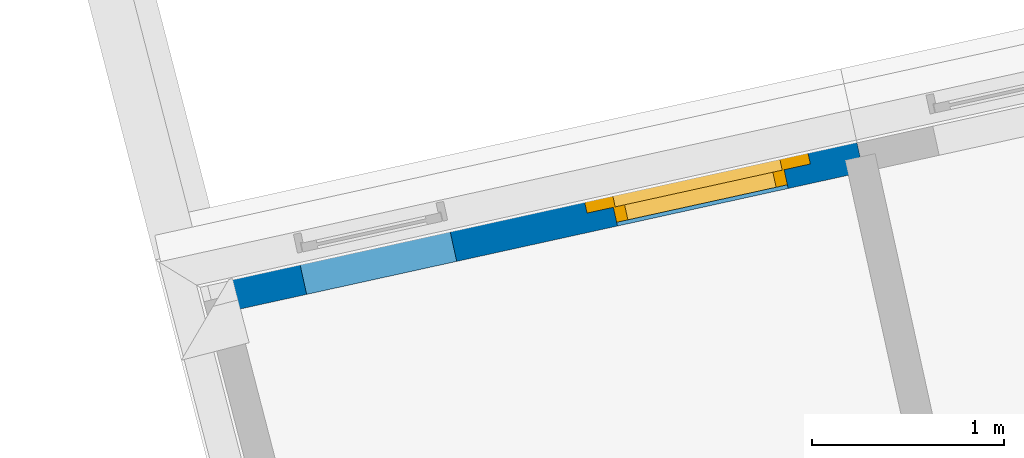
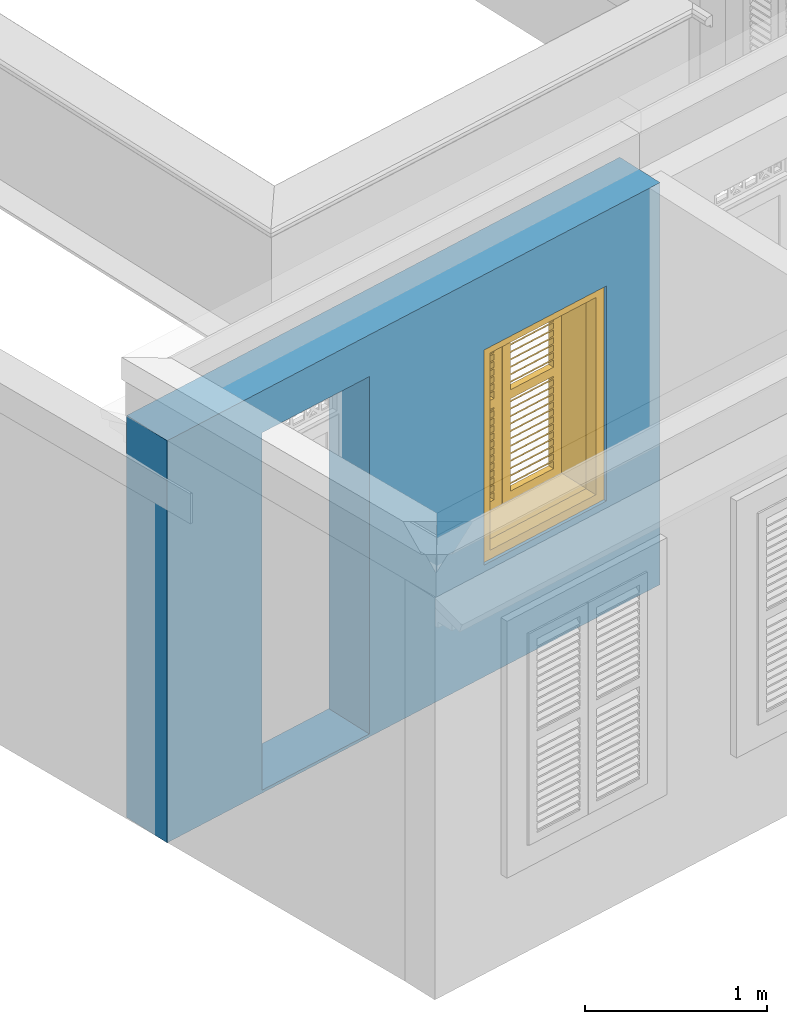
# One storey, part 3 of 17: 1 wall, 1 window, 2 openings.
"""IFC4 building model written with IfcOpenShell, lengths in metres."""

from ifc_helpers import new_model, si_unit, frame, origin, origin_with_axes, place, context, subcontext, project, spatial, polyline, outline, extrude, faceted_brep, source, transform, mapped, material, layer, layer_set, layer_usage, type_object, type_shapes, element, fill, save


model = new_model("IFC4")

# Units and contexts
model_context = context("Model", 3, world=origin_with_axes())
body_context = subcontext(model_context, "Body", "Model", "MODEL_VIEW")
ifc_project = project(units=[si_unit("PLANEANGLEUNIT", "RADIAN"), si_unit("MASSUNIT", "GRAM", prefix="KILO"), si_unit("FORCEUNIT", "NEWTON", prefix="KILO"), si_unit("LENGTHUNIT", "METRE"), si_unit("AREAUNIT", "SQUARE_METRE"), si_unit("VOLUMEUNIT", "CUBIC_METRE")], contexts=[model_context, model_context])

# Site, building, storey
site_placement = place(None, origin_with_axes())
site = spatial("IfcSite", under=ifc_project, at=site_placement, Name="Site plot-2", CompositionType="ELEMENT")
building_placement = place(None, origin_with_axes())
building = spatial("IfcBuilding", under=site, at=building_placement, Name="Building plot-2", CompositionType="ELEMENT")
storey_placement = place(None, frame((0.0, 0.0, 2.85), z_axis=(0.0, 0.0, 1.0), x_axis=(1.0, 0.0, 0.0)))
storey = spatial("IfcBuildingStorey", under=building, at=storey_placement, Name="plot-2 1", CompositionType="ELEMENT", Elevation=2.85)

# Wall, openings, window
ifc_material = material(Name="Masonry")
ifc_layer = layer(ifc_material, 0.33, ventilated=False)
ifc_layer_set = layer_set([ifc_layer], Name="exterior_0.08_0.25")
ifc_layer_usage = layer_usage(ifc_layer_set, "AXIS2", "POSITIVE", -0.25)
wall_type = type_object("IfcWallType", Name="exterior_0.08_0.25", PredefinedType="SOLIDWALL", material=ifc_layer_set)
wall_placement = place(storey_placement, frame((14.197533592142, 3.91058001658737, 0.0), z_axis=(0.0, 0.0, 1.0), x_axis=(-0.976656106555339, -0.214808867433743, 0.0)))
wall = element("IfcWall", 1, at=wall_placement, inside=storey, type_object=wall_type, material=ifc_layer_usage, Name="exterior", context=body_context, shape_type="SweptSolid", body=[
    extrude(outline(polyline([(-2.98912855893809e-16, 0.0800000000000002), (-9.28381485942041e-16, -0.25), (3.67314076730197, -0.249999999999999), (3.67314076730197, 0.0800000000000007), (-2.98912855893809e-16, 0.0800000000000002)])), origin_with_axes(), (0.0, 0.0, 1.0), 2.7),
])
opening_1_placement = place(wall_placement, frame((0.400785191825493, 0.0, 0.75)))
opening_1 = element("IfcOpeningElement", 2, at=opening_1_placement, cuts=wall, Name="My Opening", ObjectType="Opening", context=body_context, shape_type="SweptSolid", body=[
    extrude(outline(polyline([(0.0, -0.27), (0.910000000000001, -0.27), (0.910000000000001, 1.1), (-2.77555756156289e-16, 1.1), (0.0, -0.27)])), origin_with_axes(), (0.0, 0.0, 1.0), 1.445),
])
opening_2_placement = place(wall_placement, frame((2.16735557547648, 0.0, 0.02)))
element("IfcOpeningElement", 3, at=opening_2_placement, cuts=wall, Name="My Opening", ObjectType="Opening", context=body_context, shape_type="SweptSolid", body=[
    extrude(outline(polyline([(0.0, -0.269999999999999), (0.8, -0.27), (0.799999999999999, 1.1), (4.44089209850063e-16, 1.1), (0.0, -0.269999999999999)])), origin_with_axes(), (0.0, 0.0, 1.0), 2.4),
])
window_type = type_object("IfcWindowType", Name="shuttered_shorter", PartitioningType="DOUBLE_PANEL_HORIZONTAL", PredefinedType="NOTDEFINED")
shared_shape = source(origin(), body_context, "Body", "Brep", [
    faceted_brep([(0.393, 0.0, 0.622), (0.074, 0.0, 0.622), (0.074, 0.0, 0.632), (0.393, 0.0, 0.632), (0.074, -0.04, 0.592), (0.393, -0.04, 0.592), (0.393, -0.04, 0.582), (0.074, -0.04, 0.582), (0.517, 0.0, 0.682), (0.836, 0.0, 0.682), (0.836, 0.0, 0.672), (0.517, 0.0, 0.672), (0.517, -0.04, 0.642), (0.836, -0.04, 0.642), (0.836, -0.04, 0.632), (0.517, -0.04, 0.632), (0.517, 0.0, 0.632), (0.836, 0.0, 0.632), (0.836, 0.0, 0.622), (0.517, 0.0, 0.622), (0.517, -0.04, 0.592), (0.836, -0.04, 0.592), (0.836, -0.04, 0.582), (0.517, -0.04, 0.582), (0.517, 0.0, 0.232), (0.836, 0.0, 0.232), (0.836, 0.0, 0.222), (0.517, 0.0, 0.222), (0.517, -0.04, 0.192), (0.836, -0.04, 0.192), (0.836, -0.04, 0.182), (0.517, -0.04, 0.182), (0.517, 0.0, 0.532), (0.836, 0.0, 0.532), (0.836, 0.0, 0.522), (0.517, 0.0, 0.522), (0.517, -0.04, 0.492), (0.836, -0.04, 0.492), (0.836, -0.04, 0.482), (0.517, -0.04, 0.482), (0.517, 0.0, 0.482), (0.836, 0.0, 0.482), (0.836, 0.0, 0.472), (0.517, 0.0, 0.472), (0.517, -0.04, 0.442), (0.836, -0.04, 0.442), (0.836, -0.04, 0.432), (0.517, -0.04, 0.432), (0.517, 0.0, 0.582), (0.836, 0.0, 0.582), (0.836, 0.0, 0.572), (0.517, 0.0, 0.572), (0.517, -0.04, 0.542), (0.836, -0.04, 0.542), (0.836, -0.04, 0.532), (0.517, -0.04, 0.532), (0.517, 0.0, 0.182), (0.836, 0.0, 0.182), (0.836, 0.0, 0.172), (0.517, 0.0, 0.172), (0.517, -0.04, 0.142), (0.836, -0.04, 0.142), (0.836, -0.04, 0.132), (0.517, -0.04, 0.132), (0.517, 0.0, 0.382), (0.836, 0.0, 0.382), (0.836, 0.0, 0.372), (0.517, 0.0, 0.372), (0.517, -0.04, 0.342), (0.836, -0.04, 0.342), (0.836, -0.04, 0.332), (0.517, -0.04, 0.332), (0.517, 0.0, 0.432), (0.836, 0.0, 0.432), (0.836, 0.0, 0.422), (0.517, 0.0, 0.422), (0.517, -0.04, 0.392), (0.836, -0.04, 0.392), (0.836, -0.04, 0.382), (0.517, -0.04, 0.382), (0.517, 0.0, 0.132), (0.836, 0.0, 0.132), (0.836, 0.0, 0.122), (0.517, 0.0, 0.122), (0.517, -0.04, 0.092), (0.836, -0.04, 0.092), (0.836, -0.04, 0.082), (0.517, -0.04, 0.082), (0.517, 0.0, 0.282), (0.836, 0.0, 0.282), (0.836, 0.0, 0.272), (0.517, 0.0, 0.272), (0.517, -0.04, 0.242), (0.836, -0.04, 0.242), (0.836, -0.04, 0.232), (0.517, -0.04, 0.232), (0.517, 0.0, 0.332), (0.836, 0.0, 0.332), (0.836, 0.0, 0.322), (0.517, 0.0, 0.322), (0.517, -0.04, 0.292), (0.836, -0.04, 0.292), (0.836, -0.04, 0.282), (0.517, -0.04, 0.282), (0.517, 0.0, 1.362667), (0.836, 0.0, 1.362667), (0.836, 0.0, 1.352667), (0.517, 0.0, 1.352667), (0.517, -0.04, 1.322667), (0.836, -0.04, 1.322667), (0.836, -0.04, 1.312667), (0.517, -0.04, 1.312667), (0.517, 0.0, 1.312667), (0.836, 0.0, 1.312667), (0.836, 0.0, 1.302667), (0.517, 0.0, 1.302667), (0.517, -0.04, 1.272667), (0.836, -0.04, 1.272667), (0.836, -0.04, 1.262667), (0.517, -0.04, 1.262667), (0.517, 0.0, 0.912667), (0.836, 0.0, 0.912667), (0.836, 0.0, 0.902667), (0.517, 0.0, 0.902667), (0.517, -0.04, 0.872667), (0.836, -0.04, 0.872667), (0.836, -0.04, 0.862667), (0.517, -0.04, 0.862667), (0.517, 0.0, 1.212667), (0.836, 0.0, 1.212667), (0.836, 0.0, 1.202667), (0.517, 0.0, 1.202667), (0.517, -0.04, 1.172667), (0.836, -0.04, 1.172667), (0.836, -0.04, 1.162667), (0.517, -0.04, 1.162667), (0.517, 0.0, 1.162667), (0.836, 0.0, 1.162667), (0.836, 0.0, 1.152667), (0.517, 0.0, 1.152667), (0.517, -0.04, 1.122667), (0.836, -0.04, 1.122667), (0.836, -0.04, 1.112667), (0.517, -0.04, 1.112667), (0.517, 0.0, 1.262667), (0.836, 0.0, 1.262667), (0.836, 0.0, 1.252667), (0.517, 0.0, 1.252667), (0.517, -0.04, 1.222667), (0.836, -0.04, 1.222667), (0.836, -0.04, 1.212667), (0.517, -0.04, 1.212667), (0.517, 0.0, 0.862667), (0.836, 0.0, 0.862667), (0.836, 0.0, 0.852667), (0.517, 0.0, 0.852667), (0.517, -0.04, 0.822667), (0.836, -0.04, 0.822667), (0.836, -0.04, 0.812667), (0.517, -0.04, 0.812667), (0.517, 0.0, 1.062667), (0.836, 0.0, 1.062667), (0.836, 0.0, 1.052667), (0.517, 0.0, 1.052667), (0.517, -0.04, 1.022667), (0.836, -0.04, 1.022667), (0.836, -0.04, 1.012667), (0.517, -0.04, 1.012667), (0.517, 0.0, 1.112667), (0.836, 0.0, 1.112667), (0.836, 0.0, 1.102667), (0.517, 0.0, 1.102667), (0.517, -0.04, 1.072667), (0.836, -0.04, 1.072667), (0.836, -0.04, 1.062667), (0.517, -0.04, 1.062667), (0.517, 0.0, 0.812667), (0.836, 0.0, 0.812667), (0.836, 0.0, 0.802667), (0.517, 0.0, 0.802667), (0.517, -0.04, 0.772667), (0.836, -0.04, 0.772667), (0.836, -0.04, 0.762667), (0.517, -0.04, 0.762667), (0.517, 0.0, 0.962667), (0.836, 0.0, 0.962667), (0.836, 0.0, 0.952667), (0.517, 0.0, 0.952667), (0.517, -0.04, 0.922667), (0.836, -0.04, 0.922667), (0.836, -0.04, 0.912667), (0.517, -0.04, 0.912667), (0.517, 0.0, 1.012667), (0.836, 0.0, 1.012667), (0.836, 0.0, 1.002667), (0.517, 0.0, 1.002667), (0.517, -0.04, 0.972667), (0.836, -0.04, 0.972667), (0.836, -0.04, 0.962667), (0.517, -0.04, 0.962667), (0.074, 0.0, 0.682), (0.393, 0.0, 0.682), (0.393, 0.0, 0.672), (0.074, 0.0, 0.672), (0.074, -0.04, 0.642), (0.393, -0.04, 0.642), (0.393, -0.04, 0.632), (0.074, -0.04, 0.632), (0.074, 0.0, 0.232), (0.393, 0.0, 0.232), (0.393, 0.0, 0.222), (0.074, 0.0, 0.222), (0.074, -0.04, 0.192), (0.393, -0.04, 0.192), (0.393, -0.04, 0.182), (0.074, -0.04, 0.182), (0.074, 0.0, 0.532), (0.393, 0.0, 0.532), (0.393, 0.0, 0.522), (0.074, 0.0, 0.522), (0.074, -0.04, 0.492), (0.393, -0.04, 0.492), (0.393, -0.04, 0.482), (0.074, -0.04, 0.482), (0.074, 0.0, 0.482), (0.393, 0.0, 0.482), (0.393, 0.0, 0.472), (0.074, 0.0, 0.472), (0.074, -0.04, 0.442), (0.393, -0.04, 0.442), (0.393, -0.04, 0.432), (0.074, -0.04, 0.432), (0.074, 0.0, 0.582), (0.393, 0.0, 0.582), (0.393, 0.0, 0.572), (0.074, 0.0, 0.572), (0.074, -0.04, 0.542), (0.393, -0.04, 0.542), (0.393, -0.04, 0.532), (0.074, -0.04, 0.532), (0.074, 0.0, 0.182), (0.393, 0.0, 0.182), (0.393, 0.0, 0.172), (0.074, 0.0, 0.172), (0.074, -0.04, 0.142), (0.393, -0.04, 0.142), (0.393, -0.04, 0.132), (0.074, -0.04, 0.132), (0.074, 0.0, 0.382), (0.393, 0.0, 0.382), (0.393, 0.0, 0.372), (0.074, 0.0, 0.372), (0.074, -0.04, 0.342), (0.393, -0.04, 0.342), (0.393, -0.04, 0.332), (0.074, -0.04, 0.332), (0.074, 0.0, 0.432), (0.393, 0.0, 0.432), (0.393, 0.0, 0.422), (0.074, 0.0, 0.422), (0.074, -0.04, 0.392), (0.393, -0.04, 0.392), (0.393, -0.04, 0.382), (0.074, -0.04, 0.382), (0.074, 0.0, 0.132), (0.393, 0.0, 0.132), (0.393, 0.0, 0.122), (0.074, 0.0, 0.122), (0.074, -0.04, 0.092), (0.393, -0.04, 0.092), (0.393, -0.04, 0.082), (0.074, -0.04, 0.082), (0.074, 0.0, 0.282), (0.393, 0.0, 0.282), (0.393, 0.0, 0.272), (0.074, 0.0, 0.272), (0.074, -0.04, 0.242), (0.393, -0.04, 0.242), (0.393, -0.04, 0.232), (0.074, -0.04, 0.232), (0.074, 0.0, 0.332), (0.393, 0.0, 0.332), (0.393, 0.0, 0.322), (0.074, 0.0, 0.322), (0.074, -0.04, 0.292), (0.393, -0.04, 0.292), (0.393, -0.04, 0.282), (0.074, -0.04, 0.282), (0.074, 0.0, 1.362667), (0.393, 0.0, 1.362667), (0.393, 0.0, 1.352667), (0.074, 0.0, 1.352667), (0.074, -0.04, 1.322667), (0.393, -0.04, 1.322667), (0.393, -0.04, 1.312667), (0.074, -0.04, 1.312667), (0.074, 0.0, 1.312667), (0.393, 0.0, 1.312667), (0.393, 0.0, 1.302667), (0.074, 0.0, 1.302667), (0.074, -0.04, 1.272667), (0.393, -0.04, 1.272667), (0.393, -0.04, 1.262667), (0.074, -0.04, 1.262667), (0.074, 0.0, 0.912667), (0.393, 0.0, 0.912667), (0.393, 0.0, 0.902667), (0.074, 0.0, 0.902667), (0.074, -0.04, 0.872667), (0.393, -0.04, 0.872667), (0.393, -0.04, 0.862667), (0.074, -0.04, 0.862667), (0.074, 0.0, 1.212667), (0.393, 0.0, 1.212667), (0.393, 0.0, 1.202667), (0.074, 0.0, 1.202667), (0.074, -0.04, 1.172667), (0.393, -0.04, 1.172667), (0.393, -0.04, 1.162667), (0.074, -0.04, 1.162667), (0.074, 0.0, 1.162667), (0.393, 0.0, 1.162667), (0.393, 0.0, 1.152667), (0.074, 0.0, 1.152667), (0.074, -0.04, 1.122667), (0.393, -0.04, 1.122667), (0.393, -0.04, 1.112667), (0.074, -0.04, 1.112667), (0.074, 0.0, 1.262667), (0.393, 0.0, 1.262667), (0.393, 0.0, 1.252667), (0.074, 0.0, 1.252667), (0.074, -0.04, 1.222667), (0.393, -0.04, 1.222667), (0.393, -0.04, 1.212667), (0.074, -0.04, 1.212667), (0.074, 0.0, 0.862667), (0.393, 0.0, 0.862667), (0.393, 0.0, 0.852667), (0.074, 0.0, 0.852667), (0.074, -0.04, 0.822667), (0.393, -0.04, 0.822667), (0.393, -0.04, 0.812667), (0.074, -0.04, 0.812667), (0.074, 0.0, 1.062667), (0.393, 0.0, 1.062667), (0.393, 0.0, 1.052667), (0.074, 0.0, 1.052667), (0.074, -0.04, 1.022667), (0.393, -0.04, 1.022667), (0.393, -0.04, 1.012667), (0.074, -0.04, 1.012667), (0.074, 0.0, 1.112667), (0.393, 0.0, 1.112667), (0.393, 0.0, 1.102667), (0.074, 0.0, 1.102667), (0.074, -0.04, 1.072667), (0.393, -0.04, 1.072667), (0.393, -0.04, 1.062667), (0.074, -0.04, 1.062667), (0.074, 0.0, 0.812667), (0.393, 0.0, 0.812667), (0.393, 0.0, 0.802667), (0.074, 0.0, 0.802667), (0.074, -0.04, 0.772667), (0.393, -0.04, 0.772667), (0.393, -0.04, 0.762667), (0.074, -0.04, 0.762667), (0.074, 0.0, 0.962667), (0.393, 0.0, 0.962667), (0.393, 0.0, 0.952667), (0.074, 0.0, 0.952667), (0.074, -0.04, 0.922667), (0.393, -0.04, 0.922667), (0.393, -0.04, 0.912667), (0.074, -0.04, 0.912667), (0.074, 0.0, 1.012667), (0.393, 0.0, 1.012667), (0.393, 0.0, 1.002667), (0.074, 0.0, 1.002667), (0.074, -0.04, 0.972667), (0.393, -0.04, 0.972667), (0.393, -0.04, 0.962667), (0.074, -0.04, 0.962667), (0.517, -0.04, 0.072), (0.457, -0.04, 0.012), (0.896, -0.04, 0.012), (0.836, -0.04, 0.072), (0.457, -0.04, 0.692667), (0.517, -0.04, 0.692667), (0.457, 0.0, 0.012), (0.896, 0.0, 0.012), (0.836, -0.04, 0.692667), (0.896, -0.04, 0.692667), (0.836, 0.0, 0.072), (0.517, 0.0, 0.072), (0.457, 0.0, 0.692667), (0.517, 0.0, 0.692667), (0.517, -0.04, 0.752666), (0.457, -0.04, 0.752666), (0.896, 0.0, 0.692667), (0.836, 0.0, 0.692667), (0.836, -0.04, 0.752666), (0.896, -0.04, 0.752666), (0.457, 0.0, 0.752666), (0.457, -0.04, 1.433333), (0.517, -0.04, 1.373333), (0.896, 0.0, 0.752666), (0.836, -0.04, 1.373333), (0.896, -0.04, 1.433333), (0.457, 0.0, 1.433333), (0.517, 0.0, 0.752666), (0.836, 0.0, 0.752666), (0.517, 0.0, 1.373333), (0.896, 0.0, 1.433333), (0.836, 0.0, 1.373333), (0.074, -0.04, 0.072), (0.014, -0.04, 0.012), (0.453, -0.04, 0.012), (0.393, -0.04, 0.072), (0.014, -0.04, 0.692667), (0.074, -0.04, 0.692667), (0.014, 0.0, 0.012), (0.453, 0.0, 0.012), (0.393, -0.04, 0.692667), (0.453, -0.04, 0.692667), (0.393, 0.0, 0.072), (0.074, 0.0, 0.072), (0.014, 0.0, 0.692667), (0.074, 0.0, 0.692667), (0.074, -0.04, 0.752666), (0.014, -0.04, 0.752666), (0.453, 0.0, 0.692667), (0.393, 0.0, 0.692667), (0.393, -0.04, 0.752666), (0.453, -0.04, 0.752666), (0.014, 0.0, 0.752666), (0.014, -0.04, 1.433333), (0.074, -0.04, 1.373333), (0.453, 0.0, 0.752666), (0.393, -0.04, 1.373333), (0.453, -0.04, 1.433333), (0.014, 0.0, 1.433333), (0.074, 0.0, 0.752666), (0.393, 0.0, 0.752666), (0.074, 0.0, 1.373333), (0.453, 0.0, 1.433333), (0.393, 0.0, 1.373333), (0.0, 0.33, 1.445), (0.91, 0.33, 1.445), (0.85, 0.33, 1.385), (0.06, 0.33, 1.385), (0.91, 0.25, 1.445), (0.0, 0.25, 1.445), (0.91, 0.25, 1.445), (0.85, 0.33, 0.06), (0.91, 0.33, 0.0), (0.85, 0.25, 1.385), (0.06, 0.25, 1.385), (0.0, 0.33, 0.0), (0.06, 0.33, 0.06), (0.0, 0.25, 0.0), (0.91, 0.25, 0.0), (0.85, 0.25, 0.06), (0.06, 0.25, 0.06), (1.05, 0.25, 1.585), (-0.14, 0.25, 1.585), (-0.14, -0.03, 1.585), (1.05, -0.03, 1.585), (0.9, -0.03, 1.435), (0.01, -0.03, 1.435), (0.01, 0.25, 1.435), (0.9, 0.25, 1.435), (0.9, 0.25, 0.01), (0.9, -0.03, 0.01), (1.05, -0.03, -0.14), (1.05, 0.25, -0.14), (0.01, -0.03, 0.01), (0.01, 0.25, 0.01), (-0.14, -0.03, -0.14), (-0.14, 0.25, -0.14)], [[[0, 1, 2, 3]], [[4, 5, 3, 2]], [[5, 6, 0, 3]], [[1, 0, 6, 7]], [[2, 1, 7, 4]], [[5, 4, 7, 6]], [[8, 9, 10, 11]], [[12, 13, 9, 8]], [[13, 14, 10, 9]], [[14, 15, 11, 10]], [[15, 12, 8, 11]], [[13, 12, 15, 14]], [[16, 17, 18, 19]], [[20, 21, 17, 16]], [[21, 22, 18, 17]], [[22, 23, 19, 18]], [[23, 20, 16, 19]], [[21, 20, 23, 22]], [[24, 25, 26, 27]], [[28, 29, 25, 24]], [[29, 30, 26, 25]], [[30, 31, 27, 26]], [[31, 28, 24, 27]], [[29, 28, 31, 30]], [[32, 33, 34, 35]], [[36, 37, 33, 32]], [[37, 38, 34, 33]], [[38, 39, 35, 34]], [[39, 36, 32, 35]], [[37, 36, 39, 38]], [[40, 41, 42, 43]], [[44, 45, 41, 40]], [[45, 46, 42, 41]], [[46, 47, 43, 42]], [[47, 44, 40, 43]], [[45, 44, 47, 46]], [[48, 49, 50, 51]], [[52, 53, 49, 48]], [[53, 54, 50, 49]], [[54, 55, 51, 50]], [[55, 52, 48, 51]], [[53, 52, 55, 54]], [[56, 57, 58, 59]], [[60, 61, 57, 56]], [[61, 62, 58, 57]], [[62, 63, 59, 58]], [[63, 60, 56, 59]], [[61, 60, 63, 62]], [[64, 65, 66, 67]], [[68, 69, 65, 64]], [[69, 70, 66, 65]], [[70, 71, 67, 66]], [[71, 68, 64, 67]], [[69, 68, 71, 70]], [[72, 73, 74, 75]], [[76, 77, 73, 72]], [[77, 78, 74, 73]], [[78, 79, 75, 74]], [[79, 76, 72, 75]], [[77, 76, 79, 78]], [[80, 81, 82, 83]], [[84, 85, 81, 80]], [[85, 86, 82, 81]], [[86, 87, 83, 82]], [[87, 84, 80, 83]], [[85, 84, 87, 86]], [[88, 89, 90, 91]], [[92, 93, 89, 88]], [[93, 94, 90, 89]], [[94, 95, 91, 90]], [[95, 92, 88, 91]], [[93, 92, 95, 94]], [[96, 97, 98, 99]], [[100, 101, 97, 96]], [[101, 102, 98, 97]], [[102, 103, 99, 98]], [[103, 100, 96, 99]], [[101, 100, 103, 102]], [[104, 105, 106, 107]], [[108, 109, 105, 104]], [[109, 110, 106, 105]], [[110, 111, 107, 106]], [[111, 108, 104, 107]], [[109, 108, 111, 110]], [[112, 113, 114, 115]], [[116, 117, 113, 112]], [[117, 118, 114, 113]], [[118, 119, 115, 114]], [[119, 116, 112, 115]], [[117, 116, 119, 118]], [[120, 121, 122, 123]], [[124, 125, 121, 120]], [[125, 126, 122, 121]], [[126, 127, 123, 122]], [[127, 124, 120, 123]], [[125, 124, 127, 126]], [[128, 129, 130, 131]], [[132, 133, 129, 128]], [[133, 134, 130, 129]], [[134, 135, 131, 130]], [[135, 132, 128, 131]], [[133, 132, 135, 134]], [[136, 137, 138, 139]], [[140, 141, 137, 136]], [[141, 142, 138, 137]], [[142, 143, 139, 138]], [[139, 143, 140, 136]], [[141, 140, 143, 142]], [[144, 145, 146, 147]], [[148, 149, 145, 144]], [[149, 150, 146, 145]], [[150, 151, 147, 146]], [[151, 148, 144, 147]], [[149, 148, 151, 150]], [[152, 153, 154, 155]], [[156, 157, 153, 152]], [[157, 158, 154, 153]], [[158, 159, 155, 154]], [[159, 156, 152, 155]], [[157, 156, 159, 158]], [[160, 161, 162, 163]], [[164, 165, 161, 160]], [[165, 166, 162, 161]], [[166, 167, 163, 162]], [[167, 164, 160, 163]], [[165, 164, 167, 166]], [[168, 169, 170, 171]], [[172, 173, 169, 168]], [[173, 174, 170, 169]], [[174, 175, 171, 170]], [[175, 172, 168, 171]], [[173, 172, 175, 174]], [[176, 177, 178, 179]], [[180, 181, 177, 176]], [[181, 182, 178, 177]], [[182, 183, 179, 178]], [[183, 180, 176, 179]], [[181, 180, 183, 182]], [[184, 185, 186, 187]], [[188, 189, 185, 184]], [[189, 190, 186, 185]], [[190, 191, 187, 186]], [[191, 188, 184, 187]], [[189, 188, 191, 190]], [[192, 193, 194, 195]], [[196, 197, 193, 192]], [[197, 198, 194, 193]], [[198, 199, 195, 194]], [[199, 196, 192, 195]], [[197, 196, 199, 198]], [[200, 201, 202, 203]], [[204, 205, 201, 200]], [[205, 206, 202, 201]], [[206, 207, 203, 202]], [[207, 204, 200, 203]], [[205, 204, 207, 206]], [[208, 209, 210, 211]], [[212, 213, 209, 208]], [[213, 214, 210, 209]], [[214, 215, 211, 210]], [[215, 212, 208, 211]], [[213, 212, 215, 214]], [[216, 217, 218, 219]], [[220, 221, 217, 216]], [[221, 222, 218, 217]], [[222, 223, 219, 218]], [[223, 220, 216, 219]], [[221, 220, 223, 222]], [[224, 225, 226, 227]], [[228, 229, 225, 224]], [[229, 230, 226, 225]], [[230, 231, 227, 226]], [[231, 228, 224, 227]], [[229, 228, 231, 230]], [[232, 233, 234, 235]], [[236, 237, 233, 232]], [[237, 238, 234, 233]], [[238, 239, 235, 234]], [[239, 236, 232, 235]], [[237, 236, 239, 238]], [[240, 241, 242, 243]], [[244, 245, 241, 240]], [[245, 246, 242, 241]], [[246, 247, 243, 242]], [[247, 244, 240, 243]], [[245, 244, 247, 246]], [[248, 249, 250, 251]], [[252, 253, 249, 248]], [[253, 254, 250, 249]], [[254, 255, 251, 250]], [[255, 252, 248, 251]], [[253, 252, 255, 254]], [[256, 257, 258, 259]], [[260, 261, 257, 256]], [[261, 262, 258, 257]], [[262, 263, 259, 258]], [[263, 260, 256, 259]], [[261, 260, 263, 262]], [[264, 265, 266, 267]], [[268, 269, 265, 264]], [[269, 270, 266, 265]], [[270, 271, 267, 266]], [[271, 268, 264, 267]], [[269, 268, 271, 270]], [[272, 273, 274, 275]], [[276, 277, 273, 272]], [[277, 278, 274, 273]], [[278, 279, 275, 274]], [[279, 276, 272, 275]], [[277, 276, 279, 278]], [[280, 281, 282, 283]], [[284, 285, 281, 280]], [[285, 286, 282, 281]], [[286, 287, 283, 282]], [[287, 284, 280, 283]], [[285, 284, 287, 286]], [[288, 289, 290, 291]], [[292, 293, 289, 288]], [[293, 294, 290, 289]], [[294, 295, 291, 290]], [[295, 292, 288, 291]], [[293, 292, 295, 294]], [[296, 297, 298, 299]], [[300, 301, 297, 296]], [[301, 302, 298, 297]], [[302, 303, 299, 298]], [[303, 300, 296, 299]], [[301, 300, 303, 302]], [[304, 305, 306, 307]], [[308, 309, 305, 304]], [[309, 310, 306, 305]], [[310, 311, 307, 306]], [[311, 308, 304, 307]], [[309, 308, 311, 310]], [[312, 313, 314, 315]], [[316, 317, 313, 312]], [[317, 318, 314, 313]], [[318, 319, 315, 314]], [[319, 316, 312, 315]], [[317, 316, 319, 318]], [[320, 321, 322, 323]], [[324, 325, 321, 320]], [[325, 326, 322, 321]], [[326, 327, 323, 322]], [[327, 324, 320, 323]], [[325, 324, 327, 326]], [[328, 329, 330, 331]], [[332, 333, 329, 328]], [[333, 334, 330, 329]], [[334, 335, 331, 330]], [[335, 332, 328, 331]], [[333, 332, 335, 334]], [[336, 337, 338, 339]], [[340, 341, 337, 336]], [[341, 342, 338, 337]], [[342, 343, 339, 338]], [[343, 340, 336, 339]], [[341, 340, 343, 342]], [[344, 345, 346, 347]], [[348, 349, 345, 344]], [[349, 350, 346, 345]], [[350, 351, 347, 346]], [[351, 348, 344, 347]], [[349, 348, 351, 350]], [[352, 353, 354, 355]], [[356, 357, 353, 352]], [[357, 358, 354, 353]], [[358, 359, 355, 354]], [[359, 356, 352, 355]], [[357, 356, 359, 358]], [[360, 361, 362, 363]], [[364, 365, 361, 360]], [[365, 366, 362, 361]], [[366, 367, 363, 362]], [[367, 364, 360, 363]], [[365, 364, 367, 366]], [[368, 369, 370, 371]], [[372, 373, 369, 368]], [[373, 374, 370, 369]], [[374, 375, 371, 370]], [[375, 372, 368, 371]], [[373, 372, 375, 374]], [[376, 377, 378, 379]], [[380, 381, 377, 376]], [[381, 382, 378, 377]], [[382, 383, 379, 378]], [[383, 380, 376, 379]], [[381, 380, 383, 382]], [[384, 385, 386, 387]], [[388, 385, 384, 389]], [[390, 391, 386, 385]], [[392, 387, 386, 393]], [[384, 387, 394, 395]], [[390, 385, 388, 396]], [[389, 384, 395, 397]], [[389, 398, 399, 388]], [[390, 395, 394, 391]], [[400, 393, 386, 391]], [[387, 392, 401, 394]], [[402, 392, 393, 403]], [[396, 388, 399, 404]], [[390, 396, 397, 395]], [[392, 389, 397, 401]], [[398, 389, 392, 402]], [[405, 399, 398, 406]], [[394, 401, 400, 391]], [[407, 403, 393, 400]], [[408, 402, 403, 409]], [[404, 399, 405, 410]], [[411, 397, 396, 404]], [[397, 411, 412, 401]], [[398, 402, 412, 411]], [[406, 398, 411, 413]], [[405, 406, 408, 409]], [[401, 412, 407, 400]], [[414, 409, 403, 407]], [[402, 408, 415, 412]], [[405, 409, 414, 410]], [[404, 410, 413, 411]], [[408, 406, 413, 415]], [[412, 415, 414, 407]], [[413, 410, 414, 415]], [[416, 417, 418, 419]], [[420, 417, 416, 421]], [[422, 423, 418, 417]], [[424, 419, 418, 425]], [[416, 419, 426, 427]], [[422, 417, 420, 428]], [[421, 416, 427, 429]], [[421, 430, 431, 420]], [[422, 427, 426, 423]], [[432, 425, 418, 423]], [[419, 424, 433, 426]], [[434, 424, 425, 435]], [[428, 420, 431, 436]], [[422, 428, 429, 427]], [[424, 421, 429, 433]], [[430, 421, 424, 434]], [[437, 431, 430, 438]], [[426, 433, 432, 423]], [[439, 435, 425, 432]], [[440, 434, 435, 441]], [[436, 431, 437, 442]], [[443, 429, 428, 436]], [[429, 443, 444, 433]], [[430, 434, 444, 443]], [[438, 430, 443, 445]], [[437, 438, 440, 441]], [[433, 444, 439, 432]], [[446, 441, 435, 439]], [[434, 440, 447, 444]], [[437, 441, 446, 442]], [[436, 442, 445, 443]], [[440, 438, 445, 447]], [[444, 447, 446, 439]], [[445, 442, 446, 447]], [[448, 449, 450, 451]], [[452, 449, 448]], [[448, 453, 454]], [[448, 454, 452]], [[455, 450, 449, 456]], [[451, 450, 457, 458]], [[459, 448, 451, 460]], [[448, 459, 461, 453]], [[454, 453, 458, 457]], [[462, 452, 454]], [[454, 457, 463]], [[454, 463, 462]], [[456, 449, 452, 462]], [[450, 455, 463, 457]], [[456, 459, 460, 455]], [[460, 451, 458, 464]], [[459, 456, 462, 461]], [[464, 458, 453, 461]], [[461, 462, 463, 464]], [[455, 460, 464, 463]], [[465, 466, 467, 468]], [[469, 470, 471, 472]], [[473, 474, 469, 472]], [[465, 468, 475, 476]], [[470, 477, 478, 471]], [[474, 473, 478, 477]], [[474, 477, 479, 475]], [[470, 467, 479, 477]], [[470, 469, 468, 467]], [[474, 475, 468, 469]], [[471, 478, 480, 466]], [[473, 472, 465, 476]], [[473, 476, 480, 478]], [[466, 465, 472, 471]], [[480, 476, 475, 479]], [[480, 479, 467, 466]]]),
])
type_shapes(window_type, [shared_shape])
window_placement = place(storey_placement, frame((13.7481058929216, 4.08818495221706, 0.75), z_axis=(0.0, 0.0, 1.0), x_axis=(-0.888757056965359, -0.195476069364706, 0.0)))
window = element("IfcWindow", 4, at=window_placement, inside=storey, type_object=window_type, Name="bedroom sahn window", OverallHeight=1.445, OverallWidth=0.91, context=body_context, shape_type="MappedRepresentation", body=[
    mapped(shared_shape, transform((0.0, 0.0, 0.0), scale=1.0)),
])
fill(opening_1, window)

save(model, "model.ifc")
